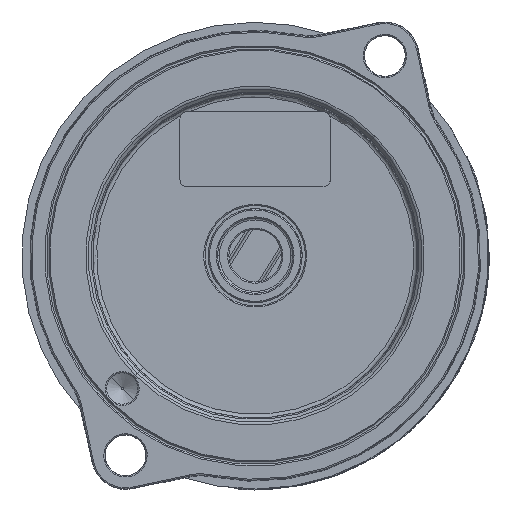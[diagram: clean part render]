
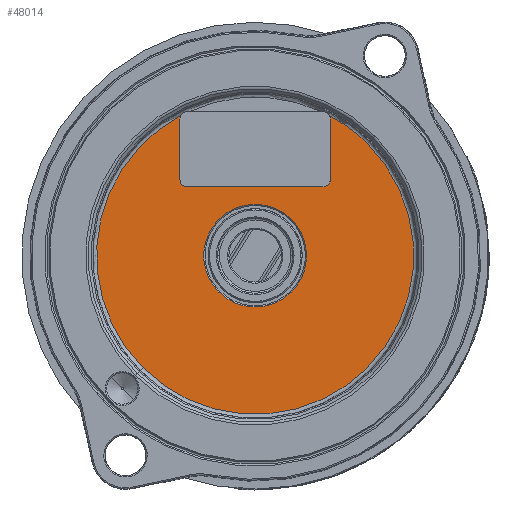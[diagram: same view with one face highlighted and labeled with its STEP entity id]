
A CAD part, front view. The second image highlights one B-rep face of the part: STEP entity #48014.
In plain terms, the highlighted planar face has unit normal (0, -1, 0).
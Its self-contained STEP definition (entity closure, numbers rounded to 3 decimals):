
#180=DIRECTION('',(0.,0.,1.));
#181=VECTOR('',#180,4.8);
#182=CARTESIAN_POINT('',(-6.,-3.25,6.1));
#183=LINE('',#182,#181);
#184=CARTESIAN_POINT('',(-6.,-3.25,6.1));
#185=CARTESIAN_POINT('',(-6.,-3.25,6.075));
#186=CARTESIAN_POINT('',(-5.997,-3.25,6.028));
#187=CARTESIAN_POINT('',(-5.982,-3.25,5.943));
#188=CARTESIAN_POINT('',(-5.95,-3.25,5.85));
#189=CARTESIAN_POINT('',(-5.895,-3.25,5.755));
#190=CARTESIAN_POINT('',(-5.826,-3.25,5.674));
#191=CARTESIAN_POINT('',(-5.745,-3.25,5.605));
#192=CARTESIAN_POINT('',(-5.65,-3.25,5.55));
#193=CARTESIAN_POINT('',(-5.557,-3.25,5.518));
#194=CARTESIAN_POINT('',(-5.472,-3.25,5.503));
#195=CARTESIAN_POINT('',(-5.425,-3.25,5.5));
#196=CARTESIAN_POINT('',(-5.4,-3.25,5.5));
#198=DIRECTION('',(-1.,0.,0.));
#199=VECTOR('',#198,10.8);
#200=CARTESIAN_POINT('',(5.4,-3.25,5.5));
#201=LINE('',#200,#199);
#202=CARTESIAN_POINT('',(5.4,-3.25,5.5));
#203=CARTESIAN_POINT('',(5.425,-3.25,5.5));
#204=CARTESIAN_POINT('',(5.472,-3.25,5.503));
#205=CARTESIAN_POINT('',(5.557,-3.25,5.518));
#206=CARTESIAN_POINT('',(5.65,-3.25,5.55));
#207=CARTESIAN_POINT('',(5.745,-3.25,5.605));
#208=CARTESIAN_POINT('',(5.826,-3.25,5.674));
#209=CARTESIAN_POINT('',(5.895,-3.25,5.755));
#210=CARTESIAN_POINT('',(5.95,-3.25,5.85));
#211=CARTESIAN_POINT('',(5.982,-3.25,5.943));
#212=CARTESIAN_POINT('',(5.997,-3.25,6.028));
#213=CARTESIAN_POINT('',(6.,-3.25,6.075));
#214=CARTESIAN_POINT('',(6.,-3.25,6.1));
#216=DIRECTION('',(0.,0.,-1.));
#217=VECTOR('',#216,4.8);
#218=CARTESIAN_POINT('',(6.,-3.25,10.9));
#219=LINE('',#218,#217);
#220=CARTESIAN_POINT('',(6.,-3.25,10.9));
#221=CARTESIAN_POINT('',(6.,-3.25,10.95));
#222=CARTESIAN_POINT('',(5.988,-3.25,11.046));
#223=CARTESIAN_POINT('',(5.953,-3.25,11.137));
#224=CARTESIAN_POINT('',(5.93,-3.25,11.181));
#226=CARTESIAN_POINT('',(0.,-3.25,
0.));
#227=DIRECTION('',(0.,-1.,0.));
#228=DIRECTION('',(0.707,0.,0.707));
#229=AXIS2_PLACEMENT_3D('',#226,#227,#228);
#231=CARTESIAN_POINT('',(0.,-3.25,
0.));
#232=DIRECTION('',(0.,-1.,0.));
#233=DIRECTION('',(-0.707,0.,-0.707));
#234=AXIS2_PLACEMENT_3D('',#231,#232,#233);
#236=CARTESIAN_POINT('',(0.,-3.25,
0.));
#237=DIRECTION('',(0.,-1.,0.));
#238=DIRECTION('',(-0.469,0.,0.883));
#239=AXIS2_PLACEMENT_3D('',#236,#237,#238);
#241=CARTESIAN_POINT('',(-5.93,-3.25,11.181));
#242=CARTESIAN_POINT('',(-5.953,-3.25,11.137));
#243=CARTESIAN_POINT('',(-5.988,-3.25,11.046));
#244=CARTESIAN_POINT('',(-6.,-3.25,10.95));
#245=CARTESIAN_POINT('',(-6.,-3.25,10.9));
#247=CARTESIAN_POINT('',(0.,-3.25,
0.));
#248=DIRECTION('',(0.,1.,0.));
#249=DIRECTION('',(-0.707,0.,-0.707));
#250=AXIS2_PLACEMENT_3D('',#247,#248,#249);
#252=CARTESIAN_POINT('',(0.,-3.25,
0.));
#253=DIRECTION('',(0.,1.,0.));
#254=DIRECTION('',(0.707,0.,0.707));
#255=AXIS2_PLACEMENT_3D('',#252,#253,#254);
#43427=CARTESIAN_POINT('',(-2.899,-3.25,
-2.899));
#43428=CARTESIAN_POINT('',(2.899,-3.25,
2.899));
#43429=VERTEX_POINT('',#43427);
#43430=VERTEX_POINT('',#43428);
#43631=CARTESIAN_POINT('',(-8.95,-3.25,
-8.949));
#43632=CARTESIAN_POINT('',(8.95,-3.25,
8.949));
#43633=VERTEX_POINT('',#43631);
#43634=VERTEX_POINT('',#43632);
#47216=CARTESIAN_POINT('',(-6.,-3.25,
6.1));
#47217=CARTESIAN_POINT('',(-6.,-3.25,
10.9));
#47218=VERTEX_POINT('',#47216);
#47219=VERTEX_POINT('',#47217);
#47224=CARTESIAN_POINT('',(6.,-3.25,
10.9));
#47225=CARTESIAN_POINT('',(6.,-3.25,
6.1));
#47226=VERTEX_POINT('',#47224);
#47227=VERTEX_POINT('',#47225);
#47228=CARTESIAN_POINT('',(5.4,-3.25,
5.5));
#47229=CARTESIAN_POINT('',(-5.4,-3.25,
5.5));
#47230=VERTEX_POINT('',#47228);
#47231=VERTEX_POINT('',#47229);
#47232=VERTEX_POINT('',#241);
#47233=VERTEX_POINT('',#224);
#47982=CARTESIAN_POINT('',(0.,-3.25,
0.));
#47983=DIRECTION('',(0.,-1.,0.));
#47984=DIRECTION('',(-0.707,0.,-0.707));
#47985=AXIS2_PLACEMENT_3D('',#47982,#47983,#47984);
#47986=PLANE('',#47985);
#47988=ORIENTED_EDGE('',*,*,#47987,.F.);
#47990=ORIENTED_EDGE('',*,*,#47989,.T.);
#47992=ORIENTED_EDGE('',*,*,#47991,.F.);
#47994=ORIENTED_EDGE('',*,*,#47993,.T.);
#47996=ORIENTED_EDGE('',*,*,#47995,.F.);
#47998=ORIENTED_EDGE('',*,*,#47997,.T.);
#48000=ORIENTED_EDGE('',*,*,#47999,.F.);
#48002=ORIENTED_EDGE('',*,*,#48001,.F.);
#48004=ORIENTED_EDGE('',*,*,#48003,.F.);
#48006=ORIENTED_EDGE('',*,*,#48005,.T.);
#48007=EDGE_LOOP('',(#47988,#47990,#47992,#47994,#47996,#47998,#48000,#48002,
#48004,#48006));
#48008=FACE_OUTER_BOUND('',#48007,.F.);
#48010=ORIENTED_EDGE('',*,*,#48009,.F.);
#48011=ORIENTED_EDGE('',*,*,#47965,.F.);
#48012=EDGE_LOOP('',(#48010,#48011));
#48013=FACE_BOUND('',#48012,.F.);
#197=B_SPLINE_CURVE_WITH_KNOTS('',3,(#184,#185,#186,#187,#188,#189,#190,#191,
#192,#193,#194,#195,#196),.UNSPECIFIED.,.F.,.F.,(4,1,1,1,1,1,1,1,1,1,4),(0.,
0.063,0.125,0.25,0.375,0.5,0.625,0.75,0.875,0.938,1.),
.UNSPECIFIED.);
#215=B_SPLINE_CURVE_WITH_KNOTS('',3,(#202,#203,#204,#205,#206,#207,#208,#209,
#210,#211,#212,#213,#214),.UNSPECIFIED.,.F.,.F.,(4,1,1,1,1,1,1,1,1,1,4),(0.,
0.063,0.125,0.25,0.375,0.5,0.625,0.75,0.875,0.938,1.),
.UNSPECIFIED.);
#225=B_SPLINE_CURVE_WITH_KNOTS('',3,(#220,#221,#222,#223,#224),.UNSPECIFIED.,
.F.,.F.,(4,1,4),(0.,0.5,1.),.UNSPECIFIED.);
#230=CIRCLE('',#229,12.656);
#235=CIRCLE('',#234,12.656);
#240=CIRCLE('',#239,12.656);
#246=B_SPLINE_CURVE_WITH_KNOTS('',3,(#241,#242,#243,#244,#245),.UNSPECIFIED.,
.F.,.F.,(4,1,4),(0.,0.5,1.),.UNSPECIFIED.);
#251=CIRCLE('',#250,4.1);
#256=CIRCLE('',#255,4.1);
#47965=EDGE_CURVE('',#43430,#43429,#256,.T.);
#47987=EDGE_CURVE('',#47218,#47219,#183,.T.);
#47989=EDGE_CURVE('',#47218,#47231,#197,.T.);
#47991=EDGE_CURVE('',#47230,#47231,#201,.T.);
#47993=EDGE_CURVE('',#47230,#47227,#215,.T.);
#47995=EDGE_CURVE('',#47226,#47227,#219,.T.);
#47997=EDGE_CURVE('',#47226,#47233,#225,.T.);
#47999=EDGE_CURVE('',#43634,#47233,#230,.T.);
#48001=EDGE_CURVE('',#43633,#43634,#235,.T.);
#48003=EDGE_CURVE('',#47232,#43633,#240,.T.);
#48005=EDGE_CURVE('',#47232,#47219,#246,.T.);
#48009=EDGE_CURVE('',#43429,#43430,#251,.T.);
#48014=ADVANCED_FACE('',(#48008,#48013),#47986,.T.);
